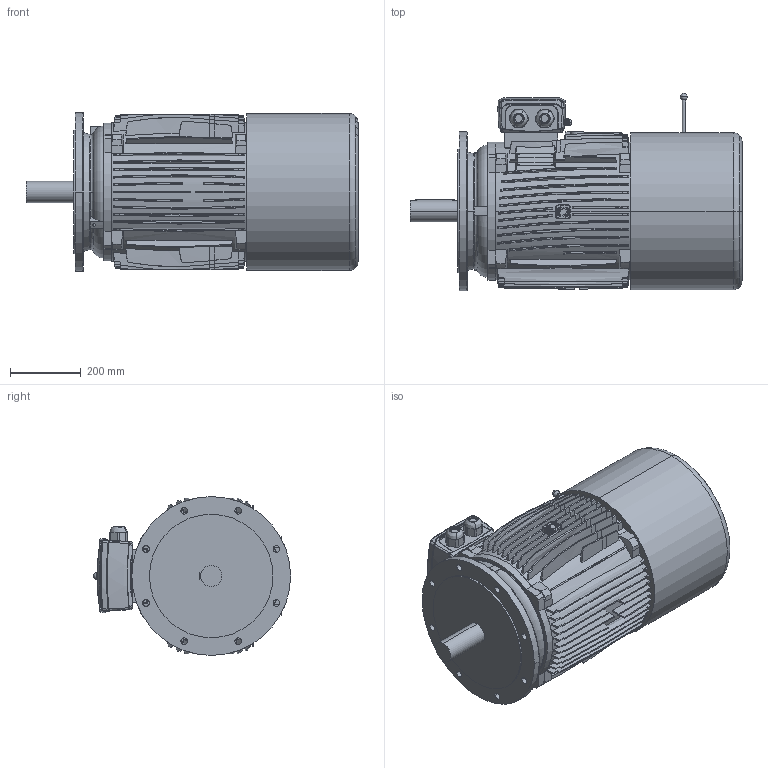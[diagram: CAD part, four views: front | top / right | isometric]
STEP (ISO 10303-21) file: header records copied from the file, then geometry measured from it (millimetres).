
FILE_DESCRIPTION((''),'2;1');
FILE_NAME('225S_ASM','2016-07-21T',('user'),(''),'PRO/ENGINEER BY PARAMETRIC TECHNOLOGY CORPORATION, 2010020','PRO/ENGINEER BY PARAMETRIC TECHNOLOGY CORPORATION, 2010020','');
FILE_SCHEMA(('CONFIG_CONTROL_DESIGN'));
Products named in the file (6): FRA225S; B5225; TBOX225; FCVATDC225; SH225; 225S_ASM
Assembly tree (5 placements, depth 2):
  225S_ASM
    FRA225S
    B5225
    TBOX225
    FCVATDC225
    SH225
Bounding box: 941 x 558.85 x 450 mm (x, y, z)
Volume: 114741882.9 mm3; surface area: 3161117.1 mm2
Topology: 7 solids, 20 shells, 2180 faces, 5796 edges, 3770 vertices
Faces by surface type: plane 812, cylinder 678, torus 272, bspline 209, cone 156, extrusion 51, sphere 2
Entity records: 80023 total; most frequent: CARTESIAN_POINT 30300, ORIENTED_EDGE 11520, DIRECTION 8572, EDGE_CURVE 5760, VERTEX_POINT 3770, AXIS2_PLACEMENT_3D 3348, B_SPLINE_CURVE_WITH_KNOTS 2569, EDGE_LOOP 2356
